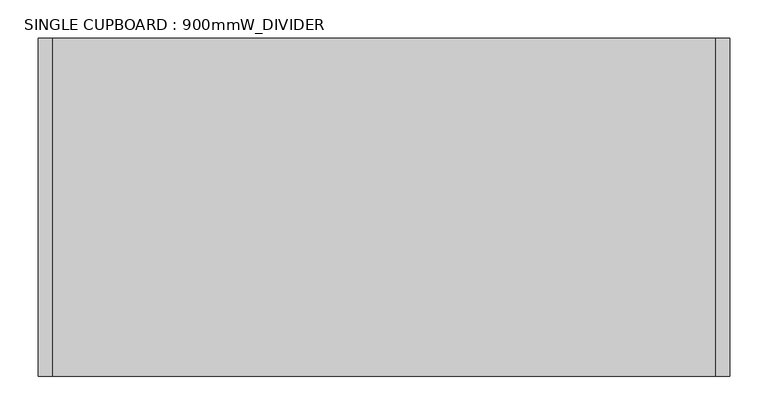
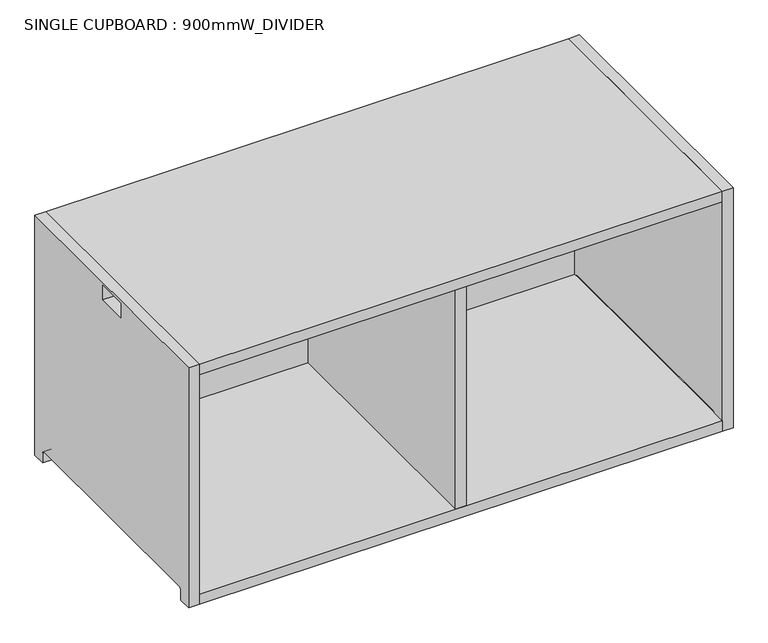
"""IFC4 building model written with IfcOpenShell, lengths in millimetres: furniture geometry, SINGLE CUPBOARD : 900mmW_DIVIDER."""

from ifc_helpers import new_model, si_unit, point, frame, frame_2d, origin, place, context, project, spatial, polyline, circle_curve, trimmed, segment, composite_curve, outline, extrude, source, transform, mapped, element, save
from ifc_brep_helpers import plane_surface, revolved_surface, advanced_brep


def single_cupboard_900mmw_divider_9f71629c(model_context):
    return source(origin(), model_context, "Body", "SolidModel", [
        extrude(outline(composite_curve([segment(polyline([(-220.0, 419.5), (220.0, 419.5), (220.0, 0.0), (198.0, 0.0), (198.0, 17.0)]), True, "CONTINUOUS"), segment(trimmed(circle_curve(frame_2d((194.0, 17.0)), 4.0), [point((198.0, 17.0))], [point((194.0, 21.0))], True, "CARTESIAN"), True, "CONTINUOUS"), segment(polyline([(194.0, 21.0), (-194.0, 21.0)]), True, "CONTINUOUS"), segment(trimmed(circle_curve(frame_2d((-194.0, 17.0)), 4.0), [point((-194.0, 21.0))], [point((-198.0, 17.0))], True, "CARTESIAN"), True, "CONTINUOUS"), segment(polyline([(-198.0, 17.0), (-198.0, 0.0), (-220.0, 0.0), (-220.0, 419.5)]), True, "CONTINUOUS")], self_intersect=False), holes=[polyline([(-26.0, 414.5), (-26.0, 389.5), (26.0, 389.5), (26.0, 414.5), (-26.0, 414.5)])]), frame((-450.0, 0.0, 0.0), z_axis=(1.0, 0.0, 0.0), x_axis=(0.0, 1.0, 0.0)), (0.0, 0.0, 1.0), 18.0),
        advanced_brep(
        [(432.0, 220.0, 18.0), (-432.0, 220.0, 18.0), (-432.0, 197.8729833, 18.0), (-426.1019215, 197.8729833, 18.0), (-426.1019215, -197.8729833, 18.0), (-432.0, -197.8729833, 18.0), (-432.0, -220.0, 18.0), (432.0, -220.0, 18.0), (432.0, 220.0, 0.0), (432.0, -220.0, 0.0), (-432.0, -220.0, 0.0), (-432.0, -198.0, 0.0), (-426.1019215, -198.0, 0.0), (-426.1019215, 198.0, 0.0), (-432.0, 198.0, 0.0), (-432.0, 220.0, 0.0), (-432.0, 198.0, 17.0), (-432.0, -198.0, 17.0), (-426.1019215, 198.0, 17.0), (-426.1019215, -198.0, 17.0)],
        [
            (0, 1),
            (1, 2),
            (2, 3),
            (3, 4),
            (4, 5),
            (5, 6),
            (6, 7),
            (7, 0),
            (8, 9),
            (9, 10),
            (10, 11),
            (11, 12),
            (12, 13),
            (13, 14),
            (14, 15),
            (15, 8),
            (0, 8),
            (15, 1),
            (14, 16),
            (16, 2, circle_curve(frame((-432.0, 194.0, 17.0), z_axis=(1.0, 0.0, 0.0), x_axis=(0.0, 1.0, 0.0)), 4.0)),
            (10, 6),
            (5, 17, circle_curve(frame((-432.0, -194.0, 17.0), z_axis=(1.0, 0.0, 0.0), x_axis=(0.0, 1.0, 0.0)), 4.0)),
            (17, 11),
            (9, 7),
            (18, 13),
            (12, 19),
            (19, 4, circle_curve(frame((-426.1019215, -194.0, 17.0), z_axis=(-1.0, 0.0, 0.0), x_axis=(0.0, 1.0, 0.0)), 4.0)),
            (3, 18, circle_curve(frame((-426.1019215, 194.0, 17.0), z_axis=(-1.0, 0.0, 0.0), x_axis=(0.0, 1.0, 0.0)), 4.0)),
            (19, 17),
            (18, 16),
        ],
        [
            plane_surface(frame((-432.0, 220.0, 18.0), z_axis=(0.0, 0.0, 1.0), x_axis=(-1.0, 0.0, 0.0))),
            plane_surface(frame((-432.0, 220.0, 0.0), z_axis=(0.0, 0.0, -1.0), x_axis=(1.0, 0.0, 0.0))),
            plane_surface(frame((432.0, 220.0, 18.0), z_axis=(0.0, 1.0, 0.0), x_axis=(0.0, 0.0, -1.0))),
            plane_surface(frame((-432.0, 220.0, 18.0), z_axis=(-1.0, 0.0, 0.0), x_axis=(0.0, 0.0, -1.0))),
            plane_surface(frame((-432.0, -220.0, 18.0), z_axis=(0.0, -1.0, 0.0), x_axis=(0.0, 0.0, -1.0))),
            plane_surface(frame((432.0, -220.0, 18.0), z_axis=(1.0, 0.0, 0.0), x_axis=(0.0, 0.0, -1.0))),
            plane_surface(frame((-426.1019215, -190.0, 17.0), z_axis=(-1.0, 0.0, 0.0), x_axis=(0.0, 0.0, 1.0))),
            revolved_surface(polyline([(-426.1019215, -190.0, 17.0), (-432.0, -190.0, 17.0)]), (-456.0458228, -194.0, 17.0), (1.0, 0.0, 0.0)),
            plane_surface(frame((-426.1019215, -198.0, 17.0), z_axis=(0.0, 1.0, 0.0), x_axis=(-1.0, 0.0, 0.0))),
            plane_surface(frame((-426.1019215, 198.0, 0.0), z_axis=(0.0, -1.0, 0.0), x_axis=(-1.0, 0.0, 0.0))),
            revolved_surface(polyline([(-426.1019215, 198.0, 17.0), (-432.0, 198.0, 17.0)]), (-456.0458228, 194.0, 17.0), (1.0, 0.0, 0.0)),
        ],
        [
            (0, [[1, 2, 3, 4, 5, 6, 7, 8]]),
            (1, [[9, 10, 11, 12, 13, 14, 15, 16]]),
            (2, [[-1, 17, -16, 18]]),
            (3, [[-18, -15, 19, 20, -2]]),
            (3, [[21, -6, 22, 23, -11]]),
            (4, [[-7, -21, -10, 24]]),
            (5, [[-8, -24, -9, -17]]),
            (6, [[25, -13, 26, 27, -4, 28]]),
            (7, [[-27, 29, -22, -5]]),
            (8, [[-26, -12, -23, -29]]),
            (9, [[-25, 30, -19, -14]]),
            (10, [[-28, -3, -20, -30]]),
        ],
    ),
        extrude(outline(composite_curve([segment(polyline([(-220.0, 419.5), (220.0, 419.5), (220.0, 0.0), (198.0, 0.0), (198.0, 17.0)]), True, "CONTINUOUS"), segment(trimmed(circle_curve(frame_2d((194.0, 17.0)), 4.0), [point((198.0, 17.0))], [point((194.0, 21.0))], True, "CARTESIAN"), True, "CONTINUOUS"), segment(polyline([(194.0, 21.0), (-194.0, 21.0)]), True, "CONTINUOUS"), segment(trimmed(circle_curve(frame_2d((-194.0, 17.0)), 4.0), [point((-194.0, 21.0))], [point((-198.0, 17.0))], True, "CARTESIAN"), True, "CONTINUOUS"), segment(polyline([(-198.0, 17.0), (-198.0, 0.0), (-220.0, 0.0), (-220.0, 419.5)]), True, "CONTINUOUS")], self_intersect=False), holes=[polyline([(-26.0, 414.5), (-26.0, 389.5), (26.0, 389.5), (26.0, 414.5), (-26.0, 414.5)])]), frame((432.0, 0.0, 0.0), z_axis=(1.0, 0.0, 0.0), x_axis=(0.0, 1.0, 0.0)), (0.0, 0.0, 1.0), 18.0),
        extrude(outline(polyline([(432.0, 220.0), (432.0, 202.0), (-432.0, 202.0), (-432.0, 220.0), (432.0, 220.0)])), frame((0.0, 0.0, 18.0), z_axis=(0.0, 0.0, 1.0), x_axis=(1.0, 0.0, 0.0)), (0.0, 0.0, 1.0), 383.5),
        extrude(outline(polyline([(432.0, 220.0), (432.0, -220.0), (-432.0, -220.0), (-432.0, 220.0), (432.0, 220.0)])), frame((0.0, 0.0, 401.5), z_axis=(0.0, 0.0, 1.0), x_axis=(1.0, 0.0, 0.0)), (0.0, 0.0, 1.0), 18.0),
        extrude(outline(polyline([(9.0, 202.0), (9.0, -220.0), (-9.0, -220.0), (-9.0, 202.0), (9.0, 202.0)])), frame((0.0, 0.0, 18.0), z_axis=(0.0, 0.0, 1.0), x_axis=(1.0, 0.0, 0.0)), (0.0, 0.0, 1.0), 383.5),
    ])


if __name__ == "__main__":
    model = new_model("IFC4")
    model_context = context("Model", 3, world=origin())
    ifc_project = project(units=[si_unit("LENGTHUNIT", "METRE", prefix="MILLI")], contexts=[model_context])
    site = spatial("IfcSite", under=ifc_project)
    building = spatial("IfcBuilding", under=site)
    placement = place(None, origin())
    single_cupboard_900mmw_divider_shape = single_cupboard_900mmw_divider_9f71629c(model_context)
    element("IfcFurniture", 1, ObjectType="SINGLE CUPBOARD : 900mmW_DIVIDER", at=placement, inside=building, context=model_context, shape_type="MappedRepresentation", body=[
        mapped(single_cupboard_900mmw_divider_shape, transform((0.0, 0.0, 0.0), x_axis=(1.0, 0.0, 0.0), y_axis=(0.0, 1.0, 0.0), z_axis=(0.0, 0.0, 1.0))),
    ])
    save(model, "model.ifc")
